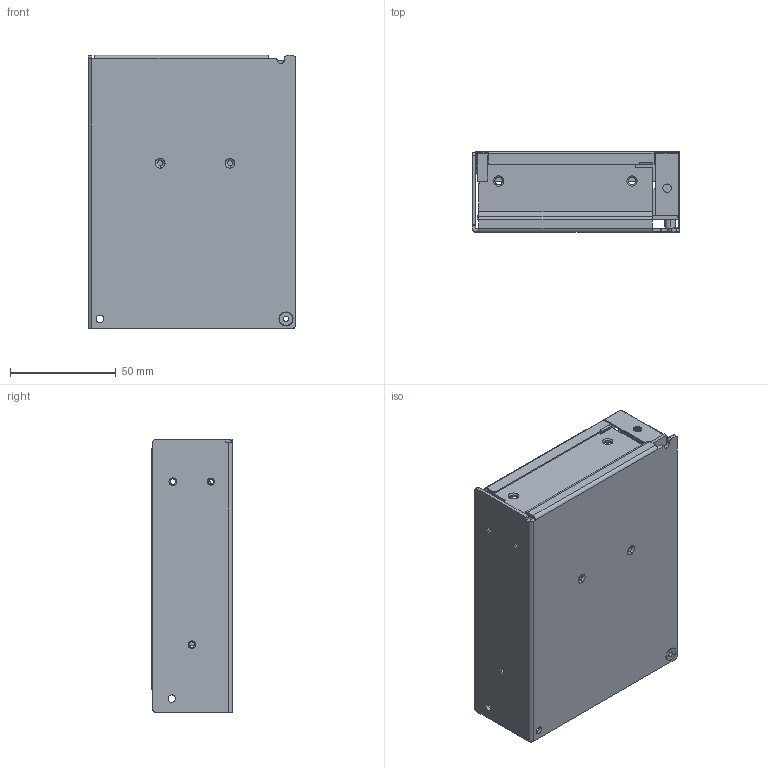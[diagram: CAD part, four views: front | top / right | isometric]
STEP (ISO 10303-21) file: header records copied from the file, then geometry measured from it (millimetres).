
FILE_DESCRIPTION(('Creo Elements/Direct Modeling STEP Export'),'2;1');
FILE_NAME('RT-65.stp','2017-05-11T13:10:07',(''),(''),'PTC Creo Elements/Direct Modeling STEP processor for AP214 (Solid Model)','PTC Creo Elements/Direct Modeling 19.0 09-May-2014 (C) Parametric Technology GmbH','');
FILE_SCHEMA(('AUTOMOTIVE_DESIGN { 1 0 10303 214 1 1 1 1 }'));
Length unit declared in the file: millimetre
Products named in the file (7): 903-D_11.PRT; 90T-T_6.PRT; CUUU_1.PRT; RG-65-PCB_1.PRT; DUNZI-S-8P_1.PRT; RQ-65_ASM_9.ASM; Rt-65_ASM.stp
Assembly tree (6 placements, depth 3):
  Rt-65_ASM.stp
    RQ-65_ASM_9.ASM
      DUNZI-S-8P_1.PRT
      RG-65-PCB_1.PRT
      CUUU_1.PRT
      90T-T_6.PRT
      903-D_11.PRT
Bounding box: 98.1 x 37.84 x 129.17 mm (x, y, z)
Volume: 65314.3 mm3; surface area: 98293.9 mm2
Topology: 5 solids, 5 shells, 1558 faces, 4503 edges, 2935 vertices
Faces by surface type: cylinder 1146, plane 338, bspline 40, torus 24, cone 10
Entity records: 59864 total; most frequent: CARTESIAN_POINT 9435, ORIENTED_EDGE 9006, DIRECTION 7578, EDGE_CURVE 4503, VERTEX_POINT 2935, AXIS2_PLACEMENT_3D 2790, EDGE_LOOP 2566, VECTOR 1998
